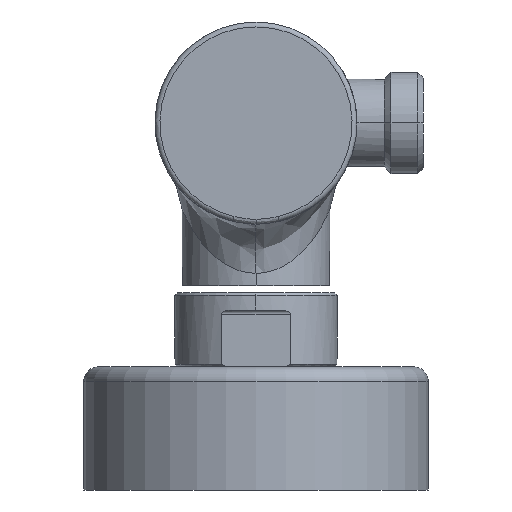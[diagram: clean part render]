
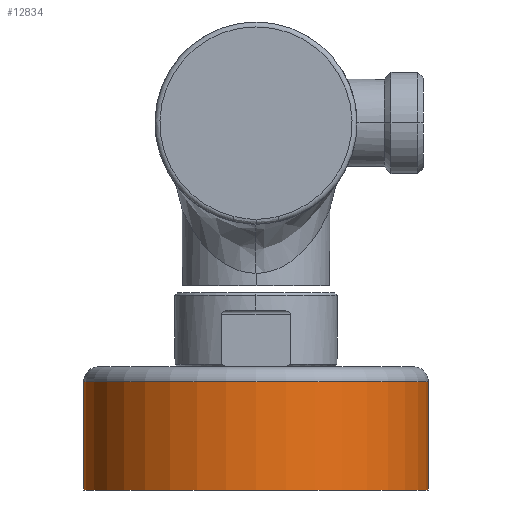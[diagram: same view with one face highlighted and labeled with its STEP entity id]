
A CAD part, left-side view. The second image highlights one B-rep face of the part: STEP entity #12834.
In plain terms, the highlighted cylindrical face has radius 35 mm (diameter 70 mm), a partial arc.
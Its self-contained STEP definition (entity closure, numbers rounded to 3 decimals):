
#12457=DIRECTION('',(0.,0.,-1.));
#12458=VECTOR('',#12457,22.);
#12459=CARTESIAN_POINT('',(-75.,35.,-52.5));
#12460=LINE('',#12459,#12458);
#12461=DIRECTION('',(0.,0.,-1.));
#12462=VECTOR('',#12461,22.);
#12463=CARTESIAN_POINT('',(-75.,-35.,-52.5));
#12464=LINE('',#12463,#12462);
#12470=CARTESIAN_POINT('',(-75.,0.,-52.5));
#12471=DIRECTION('',(0.,0.,1.));
#12472=DIRECTION('',(0.,1.,0.));
#12473=AXIS2_PLACEMENT_3D('',#12470,#12471,#12472);
#12744=CARTESIAN_POINT('',(-75.,0.,-74.5));
#12745=DIRECTION('',(0.,0.,1.));
#12746=DIRECTION('',(0.,1.,0.));
#12747=AXIS2_PLACEMENT_3D('',#12744,#12745,#12746);
#12786=CARTESIAN_POINT('',(-75.,35.,-52.5));
#12788=VERTEX_POINT('',#12786);
#12789=CARTESIAN_POINT('',(-75.,35.,-74.5));
#12790=VERTEX_POINT('',#12789);
#12792=CARTESIAN_POINT('',(-75.,-35.,-52.5));
#12794=VERTEX_POINT('',#12792);
#12795=CARTESIAN_POINT('',(-75.,-35.,-74.5));
#12796=VERTEX_POINT('',#12795);
#12821=CARTESIAN_POINT('',(-75.,0.,-75.75));
#12822=DIRECTION('',(0.,0.,1.));
#12823=DIRECTION('',(0.,-1.,0.));
#12824=AXIS2_PLACEMENT_3D('',#12821,#12822,#12823);
#12825=CYLINDRICAL_SURFACE('',#12824,35.);
#12826=ORIENTED_EDGE('',*,*,#12810,.F.);
#12828=ORIENTED_EDGE('',*,*,#12827,.T.);
#12829=ORIENTED_EDGE('',*,*,#12814,.T.);
#12831=ORIENTED_EDGE('',*,*,#12830,.F.);
#12832=EDGE_LOOP('',(#12826,#12828,#12829,#12831));
#12833=FACE_OUTER_BOUND('',#12832,.F.);
#12834=ADVANCED_FACE('',(#12833),#12825,.T.);
#12474=CIRCLE('',#12473,35.);
#12748=CIRCLE('',#12747,35.);
#12810=EDGE_CURVE('',#12788,#12790,#12460,.T.);
#12814=EDGE_CURVE('',#12794,#12796,#12464,.T.);
#12827=EDGE_CURVE('',#12788,#12794,#12474,.T.);
#12830=EDGE_CURVE('',#12790,#12796,#12748,.T.);
